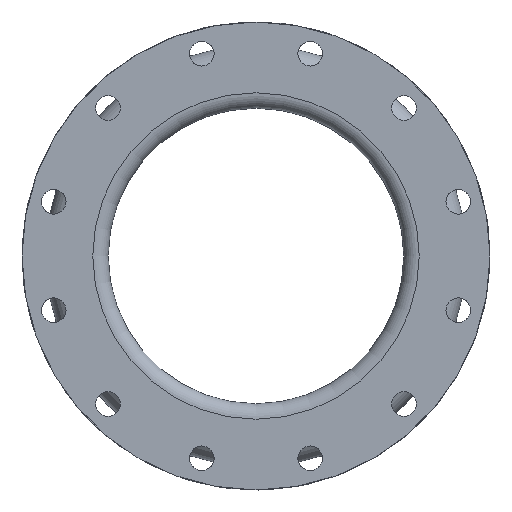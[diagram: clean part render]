
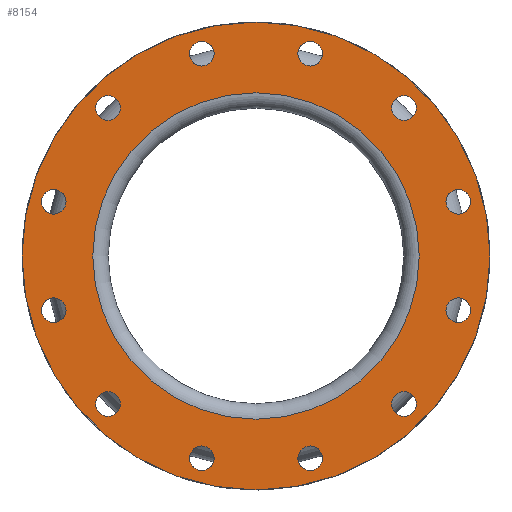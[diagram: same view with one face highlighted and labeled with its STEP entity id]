
A CAD part, left-side view. The second image highlights one B-rep face of the part: STEP entity #8154.
In plain terms, the highlighted planar face has unit normal (-1, 0, 0).
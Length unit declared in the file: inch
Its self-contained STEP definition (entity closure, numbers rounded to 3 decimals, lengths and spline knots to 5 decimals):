
#133=FACE_BOUND('',#1334,.T.);
#134=FACE_BOUND('',#1335,.T.);
#135=FACE_BOUND('',#1336,.T.);
#136=FACE_BOUND('',#1337,.T.);
#137=FACE_BOUND('',#1338,.T.);
#138=FACE_BOUND('',#1339,.T.);
#139=FACE_BOUND('',#1340,.T.);
#140=FACE_BOUND('',#1341,.T.);
#141=FACE_BOUND('',#1342,.T.);
#142=FACE_BOUND('',#1343,.T.);
#143=FACE_BOUND('',#1344,.T.);
#144=FACE_BOUND('',#1345,.T.);
#145=FACE_BOUND('',#1346,.T.);
#797=FACE_OUTER_BOUND('',#1333,.T.);
#1333=EDGE_LOOP('',(#6241));
#1334=EDGE_LOOP('',(#6242));
#1335=EDGE_LOOP('',(#6243));
#1336=EDGE_LOOP('',(#6244));
#1337=EDGE_LOOP('',(#6245));
#1338=EDGE_LOOP('',(#6246));
#1339=EDGE_LOOP('',(#6247));
#1340=EDGE_LOOP('',(#6248));
#1341=EDGE_LOOP('',(#6249));
#1342=EDGE_LOOP('',(#6250));
#1343=EDGE_LOOP('',(#6251));
#1344=EDGE_LOOP('',(#6252));
#1345=EDGE_LOOP('',(#6253));
#1346=EDGE_LOOP('',(#6254));
#2860=CIRCLE('',#8860,0.5);
#2862=CIRCLE('',#8863,0.5);
#2864=CIRCLE('',#8866,0.5);
#2866=CIRCLE('',#8869,0.5);
#2868=CIRCLE('',#8872,0.5);
#2870=CIRCLE('',#8875,0.5);
#2872=CIRCLE('',#8878,0.5);
#2874=CIRCLE('',#8881,0.5);
#2876=CIRCLE('',#8884,0.5);
#2878=CIRCLE('',#8887,0.5);
#2880=CIRCLE('',#8890,0.5);
#2882=CIRCLE('',#8893,0.5);
#2922=CIRCLE('',#8960,6.625);
#2923=CIRCLE('',#8962,9.5);
#3582=VERTEX_POINT('',#13223);
#3584=VERTEX_POINT('',#13228);
#3586=VERTEX_POINT('',#13233);
#3588=VERTEX_POINT('',#13238);
#3590=VERTEX_POINT('',#13243);
#3592=VERTEX_POINT('',#13248);
#3594=VERTEX_POINT('',#13253);
#3596=VERTEX_POINT('',#13258);
#3598=VERTEX_POINT('',#13263);
#3600=VERTEX_POINT('',#13268);
#3602=VERTEX_POINT('',#13273);
#3604=VERTEX_POINT('',#13278);
#3644=VERTEX_POINT('',#13385);
#3645=VERTEX_POINT('',#13388);
#4534=EDGE_CURVE('',#3582,#3582,#2860,.T.);
#4536=EDGE_CURVE('',#3584,#3584,#2862,.T.);
#4538=EDGE_CURVE('',#3586,#3586,#2864,.T.);
#4540=EDGE_CURVE('',#3588,#3588,#2866,.T.);
#4542=EDGE_CURVE('',#3590,#3590,#2868,.T.);
#4544=EDGE_CURVE('',#3592,#3592,#2870,.T.);
#4546=EDGE_CURVE('',#3594,#3594,#2872,.T.);
#4548=EDGE_CURVE('',#3596,#3596,#2874,.T.);
#4550=EDGE_CURVE('',#3598,#3598,#2876,.T.);
#4552=EDGE_CURVE('',#3600,#3600,#2878,.T.);
#4554=EDGE_CURVE('',#3602,#3602,#2880,.T.);
#4556=EDGE_CURVE('',#3604,#3604,#2882,.T.);
#4596=EDGE_CURVE('',#3644,#3644,#2922,.T.);
#4597=EDGE_CURVE('',#3645,#3645,#2923,.T.);
#6241=ORIENTED_EDGE('',*,*,#4597,.F.);
#6242=ORIENTED_EDGE('',*,*,#4596,.T.);
#6243=ORIENTED_EDGE('',*,*,#4534,.T.);
#6244=ORIENTED_EDGE('',*,*,#4536,.T.);
#6245=ORIENTED_EDGE('',*,*,#4538,.T.);
#6246=ORIENTED_EDGE('',*,*,#4540,.T.);
#6247=ORIENTED_EDGE('',*,*,#4542,.T.);
#6248=ORIENTED_EDGE('',*,*,#4544,.T.);
#6249=ORIENTED_EDGE('',*,*,#4546,.T.);
#6250=ORIENTED_EDGE('',*,*,#4548,.T.);
#6251=ORIENTED_EDGE('',*,*,#4550,.T.);
#6252=ORIENTED_EDGE('',*,*,#4552,.T.);
#6253=ORIENTED_EDGE('',*,*,#4554,.T.);
#6254=ORIENTED_EDGE('',*,*,#4556,.T.);
#7415=PLANE('',#8961);
#8154=ADVANCED_FACE('',(#797,#133,#134,#135,#136,#137,#138,#139,#140,#141,
#142,#143,#144,#145),#7415,.T.);
#8860=AXIS2_PLACEMENT_3D('',#13224,#10687,#10688);
#8863=AXIS2_PLACEMENT_3D('',#13229,#10693,#10694);
#8866=AXIS2_PLACEMENT_3D('',#13234,#10699,#10700);
#8869=AXIS2_PLACEMENT_3D('',#13239,#10705,#10706);
#8872=AXIS2_PLACEMENT_3D('',#13244,#10711,#10712);
#8875=AXIS2_PLACEMENT_3D('',#13249,#10717,#10718);
#8878=AXIS2_PLACEMENT_3D('',#13254,#10723,#10724);
#8881=AXIS2_PLACEMENT_3D('',#13259,#10729,#10730);
#8884=AXIS2_PLACEMENT_3D('',#13264,#10735,#10736);
#8887=AXIS2_PLACEMENT_3D('',#13269,#10741,#10742);
#8890=AXIS2_PLACEMENT_3D('',#13274,#10747,#10748);
#8893=AXIS2_PLACEMENT_3D('',#13279,#10753,#10754);
#8960=AXIS2_PLACEMENT_3D('',#13386,#10887,#10888);
#8961=AXIS2_PLACEMENT_3D('',#13387,#10889,#10890);
#8962=AXIS2_PLACEMENT_3D('',#13389,#10891,#10892);
#10687=DIRECTION('center_axis',(1.,0.,0.));
#10688=DIRECTION('ref_axis',(0.,-0.866,0.5));
#10693=DIRECTION('center_axis',(1.,0.,0.));
#10694=DIRECTION('ref_axis',(0.,-0.5,0.866));
#10699=DIRECTION('center_axis',(1.,0.,0.));
#10700=DIRECTION('ref_axis',(0.,0.,
1.));
#10705=DIRECTION('center_axis',(1.,0.,0.));
#10706=DIRECTION('ref_axis',(0.,0.5,0.866));
#10711=DIRECTION('center_axis',(1.,0.,0.));
#10712=DIRECTION('ref_axis',(0.,0.866,0.5));
#10717=DIRECTION('center_axis',(1.,0.,0.));
#10718=DIRECTION('ref_axis',(0.,1.,0.));
#10723=DIRECTION('center_axis',(1.,0.,0.));
#10724=DIRECTION('ref_axis',(0.,0.866,-0.5));
#10729=DIRECTION('center_axis',(1.,0.,0.));
#10730=DIRECTION('ref_axis',(0.,0.5,-0.866));
#10735=DIRECTION('center_axis',(1.,0.,0.));
#10736=DIRECTION('ref_axis',(0.,0.,
-1.));
#10741=DIRECTION('center_axis',(1.,0.,0.));
#10742=DIRECTION('ref_axis',(0.,-0.5,-0.866));
#10747=DIRECTION('center_axis',(1.,0.,0.));
#10748=DIRECTION('ref_axis',(0.,-0.866,-0.5));
#10753=DIRECTION('center_axis',(1.,0.,0.));
#10754=DIRECTION('ref_axis',(0.,-1.,0.));
#10887=DIRECTION('center_axis',(1.,0.,0.));
#10888=DIRECTION('ref_axis',(0.,0.,-1.));
#10889=DIRECTION('center_axis',(-1.,0.,0.));
#10890=DIRECTION('ref_axis',(0.,0.,1.));
#10891=DIRECTION('center_axis',(1.,0.,0.));
#10892=DIRECTION('ref_axis',(0.,0.,-1.));
#13223=CARTESIAN_POINT('',(-8.,6.44342,-6.26041));
#13224=CARTESIAN_POINT('Origin',(-8.,6.01041,-6.01041));
#13228=CARTESIAN_POINT('',(-8.,2.44996,-8.64338));
#13229=CARTESIAN_POINT('Origin',(-8.,2.19996,-8.21037));
#13233=CARTESIAN_POINT('',(-8.,-2.19996,-8.71037));
#13234=CARTESIAN_POINT('Origin',(-8.,-2.19996,-8.21037));
#13238=CARTESIAN_POINT('',(-8.,-6.26041,-6.44342));
#13239=CARTESIAN_POINT('Origin',(-8.,-6.01041,-6.01041));
#13243=CARTESIAN_POINT('',(-8.,-8.64338,-2.44996));
#13244=CARTESIAN_POINT('Origin',(-8.,-8.21037,-2.19996));
#13248=CARTESIAN_POINT('',(-8.,-8.71037,2.19996));
#13249=CARTESIAN_POINT('Origin',(-8.,-8.21037,2.19996));
#13253=CARTESIAN_POINT('',(-8.,-6.44342,6.26041));
#13254=CARTESIAN_POINT('Origin',(-8.,-6.01041,6.01041));
#13258=CARTESIAN_POINT('',(-8.,-2.44996,8.64338));
#13259=CARTESIAN_POINT('Origin',(-8.,-2.19996,8.21037));
#13263=CARTESIAN_POINT('',(-8.,2.19996,8.71037));
#13264=CARTESIAN_POINT('Origin',(-8.,2.19996,8.21037));
#13268=CARTESIAN_POINT('',(-8.,6.26041,6.44342));
#13269=CARTESIAN_POINT('Origin',(-8.,6.01041,6.01041));
#13273=CARTESIAN_POINT('',(-8.,8.64338,2.44996));
#13274=CARTESIAN_POINT('Origin',(-8.,8.21037,2.19996));
#13278=CARTESIAN_POINT('',(-8.,8.71037,-2.19996));
#13279=CARTESIAN_POINT('Origin',(-8.,8.21037,-2.19996));
#13385=CARTESIAN_POINT('',(-8.,6.625,0.));
#13386=CARTESIAN_POINT('Origin',(-8.,0.,0.));
#13387=CARTESIAN_POINT('Origin',(-8.,9.5,0.));
#13388=CARTESIAN_POINT('',(-8.,9.5,0.));
#13389=CARTESIAN_POINT('Origin',(-8.,0.,0.));
